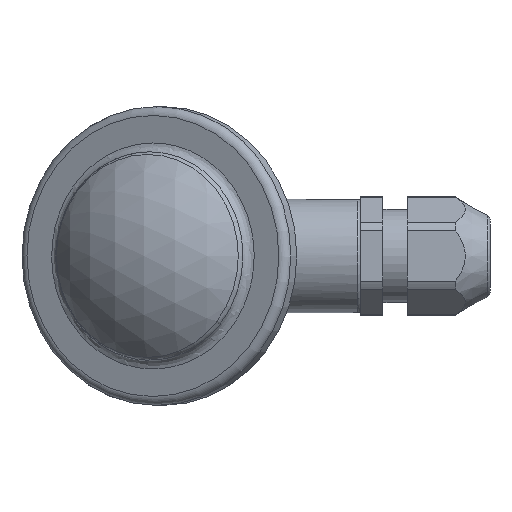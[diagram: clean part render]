
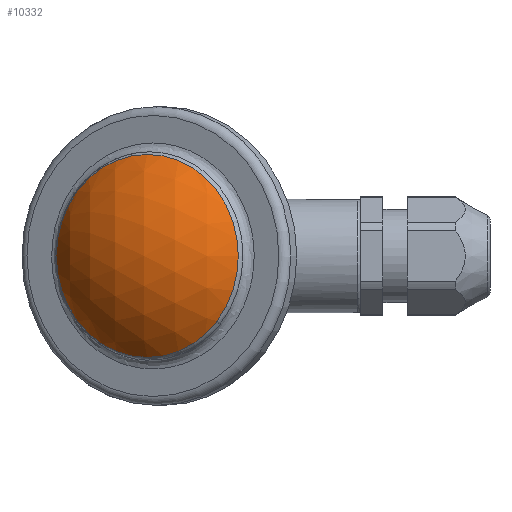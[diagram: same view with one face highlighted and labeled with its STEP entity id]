
A CAD part, top view. The second image highlights one B-rep face of the part: STEP entity #10332.
In plain terms, the highlighted spherical face has radius 32.84 mm.
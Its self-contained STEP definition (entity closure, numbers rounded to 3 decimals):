
#30=SPHERICAL_SURFACE('',#10846,32.84);
#198=CIRCLE('',#10845,22.756);
#1246=FACE_OUTER_BOUND('',#1854,.T.);
#1854=EDGE_LOOP('',(#9230));
#5032=VERTEX_POINT('',#18436);
#6453=EDGE_CURVE('',#5032,#5032,#198,.T.);
#9230=ORIENTED_EDGE('',*,*,#6453,.F.);
#10332=ADVANCED_FACE('',(#1246),#30,.T.);
#10845=AXIS2_PLACEMENT_3D('',#18438,#12711,#12712);
#10846=AXIS2_PLACEMENT_3D('',#18439,#12713,#12714);
#12711=DIRECTION('center_axis',(0.444,0.,
-0.896));
#12712=DIRECTION('ref_axis',(-0.896,0.,-0.444));
#12713=DIRECTION('center_axis',(1.,0.,0.));
#12714=DIRECTION('ref_axis',(0.,0.001,
1.));
#18436=CARTESIAN_POINT('',(15.586,0.,72.308));
#18438=CARTESIAN_POINT('Origin',(-4.808,0.,
62.212));
#18439=CARTESIAN_POINT('Origin',(5.696,0.,
40.993));
